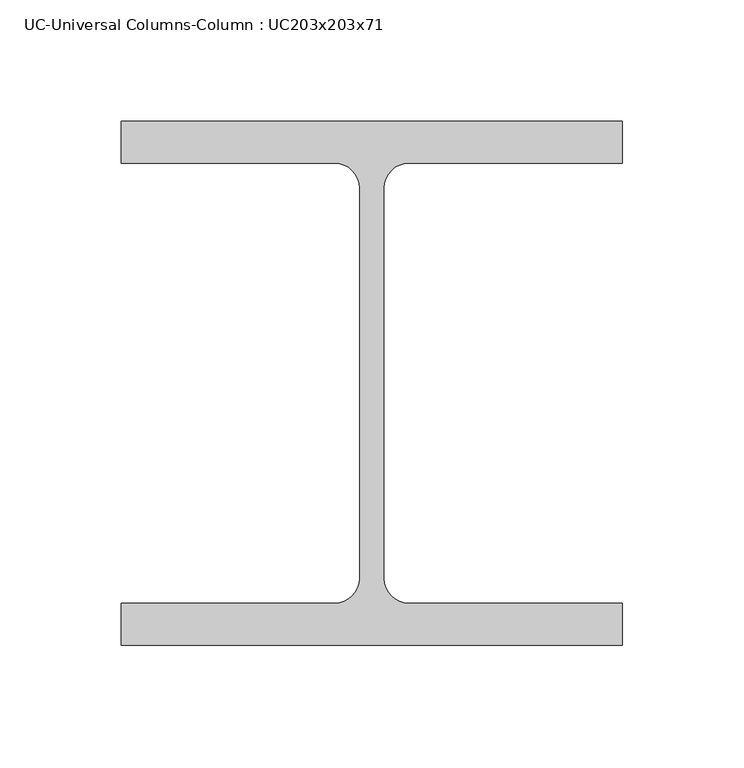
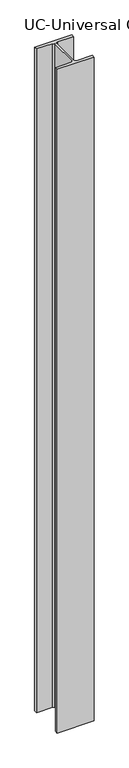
"""IFC4 building model written with IfcOpenShell, lengths in millimetres: column geometry, UC-Universal Columns-Column : UC203x203x71."""

from ifc_helpers import new_model, si_unit, point, frame, frame_2d, origin, place, context, project, spatial, polyline, circle_curve, trimmed, segment, composite_curve, outline, extrude, source, transform, mapped, element, save


def uc_universal_columns_column_uc203x203x71_d477e635(model_context):
    return source(origin(), model_context, "Body", "SweptSolid", [
        extrude(outline(composite_curve([segment(polyline([(103.2, 107.9), (103.2, 90.6), (15.2, 90.6)]), True, "CONTINUOUS"), segment(trimmed(circle_curve(frame_2d((15.2, 80.4)), 10.2), [point((15.2, 90.6))], [point((5.0, 80.4))], True, "CARTESIAN"), True, "CONTINUOUS"), segment(polyline([(5.0, 80.4), (5.0, -80.4)]), True, "CONTINUOUS"), segment(trimmed(circle_curve(frame_2d((15.2, -80.4)), 10.2), [point((5.0, -80.4))], [point((15.2, -90.6))], True, "CARTESIAN"), True, "CONTINUOUS"), segment(polyline([(15.2, -90.6), (103.2, -90.6), (103.2, -107.9), (-103.2, -107.9), (-103.2, -90.6), (-15.2, -90.6)]), True, "CONTINUOUS"), segment(trimmed(circle_curve(frame_2d((-15.2, -80.4)), 10.2), [point((-15.2, -90.6))], [point((-5.0, -80.4))], True, "CARTESIAN"), True, "CONTINUOUS"), segment(polyline([(-5.0, -80.4), (-5.0, 80.4)]), True, "CONTINUOUS"), segment(trimmed(circle_curve(frame_2d((-15.2, 80.4)), 10.2), [point((-5.0, 80.4))], [point((-15.2, 90.6))], True, "CARTESIAN"), True, "CONTINUOUS"), segment(polyline([(-15.2, 90.6), (-103.2, 90.6), (-103.2, 107.9), (103.2, 107.9)]), True, "CONTINUOUS")], self_intersect=False)), frame((0.0, 0.0, 4695.0), z_axis=(0.0, 0.0, 1.0), x_axis=(1.0, 0.0, 0.0)), (0.0, 0.0, 1.0), 3900.0),
    ])


if __name__ == "__main__":
    model = new_model("IFC4")
    model_context = context("Model", 3, world=origin())
    ifc_project = project(units=[si_unit("LENGTHUNIT", "METRE", prefix="MILLI")], contexts=[model_context])
    site = spatial("IfcSite", under=ifc_project)
    building = spatial("IfcBuilding", under=site)
    placement = place(None, origin())
    uc_universal_columns_column_uc203x203x71_shape = uc_universal_columns_column_uc203x203x71_d477e635(model_context)
    element("IfcColumn", 1, ObjectType="UC-Universal Columns-Column : UC203x203x71", at=placement, inside=building, context=model_context, shape_type="MappedRepresentation", body=[
        mapped(uc_universal_columns_column_uc203x203x71_shape, transform((0.0, 0.0, 0.0), x_axis=(1.0, 0.0, 0.0), y_axis=(0.0, 1.0, 0.0), z_axis=(0.0, 0.0, 1.0))),
    ])
    save(model, "model.ifc")
